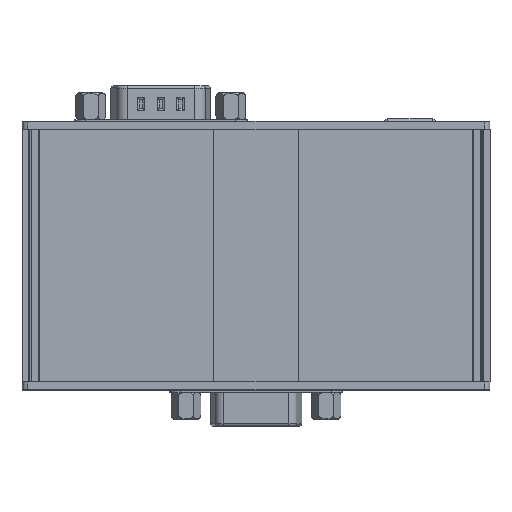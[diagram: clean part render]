
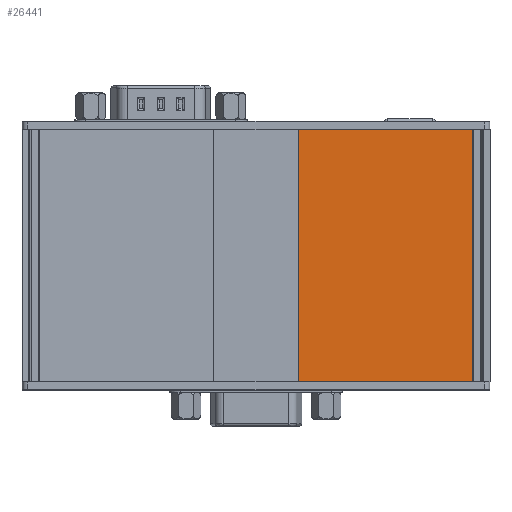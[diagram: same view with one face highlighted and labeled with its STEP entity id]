
A CAD part, front view. The second image highlights one B-rep face of the part: STEP entity #26441.
In plain terms, the highlighted planar face has unit normal (0, -1, 0).
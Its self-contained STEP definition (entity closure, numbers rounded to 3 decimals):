
#89 = DIRECTION ( 'NONE',  ( 1., 0., 0. ) ) ;
#247 = VECTOR ( 'NONE', #89, 1000. ) ;
#279 = EDGE_LOOP ( 'NONE', ( #24562, #26644, #8151, #15363 ) ) ;
#336 = CARTESIAN_POINT ( 'NONE',  ( -15.933, 21.025, 22.5 ) ) ;
#2475 = LINE ( 'NONE', #15599, #20077 ) ;
#2759 = VERTEX_POINT ( 'NONE', #19146 ) ;
#2969 = CARTESIAN_POINT ( 'NONE',  ( -15.933, 21.025, -22.5 ) ) ;
#4005 = CARTESIAN_POINT ( 'NONE',  ( -15.933, 21.025, 22.5 ) ) ;
#4224 = DIRECTION ( 'NONE',  ( 0., 0., -1. ) ) ;
#5571 = VERTEX_POINT ( 'NONE', #336 ) ;
#6011 = DIRECTION ( 'NONE',  ( -1., 0., 0. ) ) ;
#8151 = ORIENTED_EDGE ( 'NONE', *, *, #11585, .F. ) ;
#9903 = FACE_OUTER_BOUND ( 'NONE', #279, .T. ) ;
#10810 = LINE ( 'NONE', #4005, #247 ) ;
#11585 = EDGE_CURVE ( 'NONE', #27214, #5571, #10810, .T. ) ;
#11886 = EDGE_CURVE ( 'NONE', #5571, #2759, #2475, .T. ) ;
#13720 = VECTOR ( 'NONE', #27937, 1000. ) ;
#13927 = LINE ( 'NONE', #2969, #16467 ) ;
#15038 = EDGE_CURVE ( 'NONE', #27214, #28015, #15371, .T. ) ;
#15140 = EDGE_CURVE ( 'NONE', #28015, #2759, #13927, .T. ) ;
#15363 = ORIENTED_EDGE ( 'NONE', *, *, #15038, .T. ) ;
#15371 = LINE ( 'NONE', #24219, #13720 ) ;
#15599 = CARTESIAN_POINT ( 'NONE',  ( -15.933, 21.025, 22.5 ) ) ;
#16467 = VECTOR ( 'NONE', #19860, 1000. ) ;
#17112 = CARTESIAN_POINT ( 'NONE',  ( -47.063, 21.025, 22.5 ) ) ;
#17907 = AXIS2_PLACEMENT_3D ( 'NONE', #21395, #25789, #6011 ) ;
#19146 = CARTESIAN_POINT ( 'NONE',  ( -15.933, 21.025, -22.5 ) ) ;
#19860 = DIRECTION ( 'NONE',  ( 1., 0., 0. ) ) ;
#20077 = VECTOR ( 'NONE', #4224, 1000. ) ;
#20444 = CARTESIAN_POINT ( 'NONE',  ( -47.063, 21.025, -22.5 ) ) ;
#20979 = PLANE ( 'NONE',  #17907 ) ;
#21395 = CARTESIAN_POINT ( 'NONE',  ( -15.933, 21.025, 22.5 ) ) ;
#24219 = CARTESIAN_POINT ( 'NONE',  ( -47.063, 21.025, 22.5 ) ) ;
#24562 = ORIENTED_EDGE ( 'NONE', *, *, #15140, .T. ) ;
#25789 = DIRECTION ( 'NONE',  ( 0., 1., 0. ) ) ;
#26441 = ADVANCED_FACE ( 'NONE', ( #9903 ), #20979, .F. ) ;
#26644 = ORIENTED_EDGE ( 'NONE', *, *, #11886, .F. ) ;
#27214 = VERTEX_POINT ( 'NONE', #17112 ) ;
#27937 = DIRECTION ( 'NONE',  ( 0., 0., -1. ) ) ;
#28015 = VERTEX_POINT ( 'NONE', #20444 ) ;
